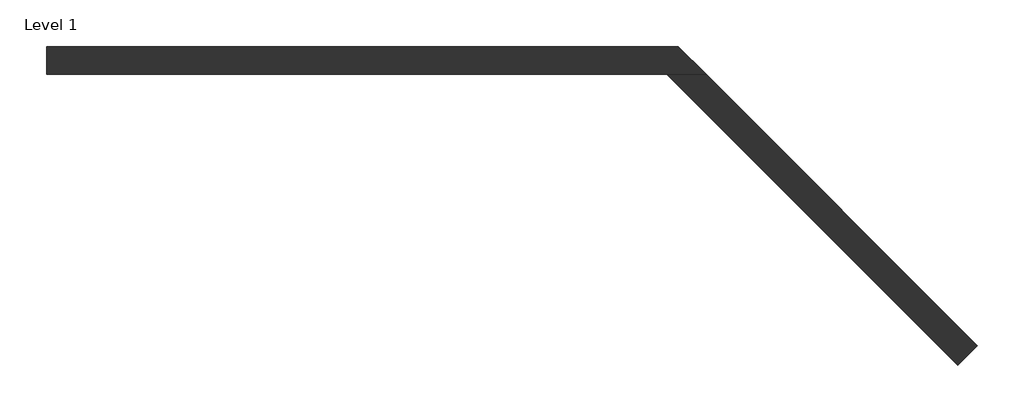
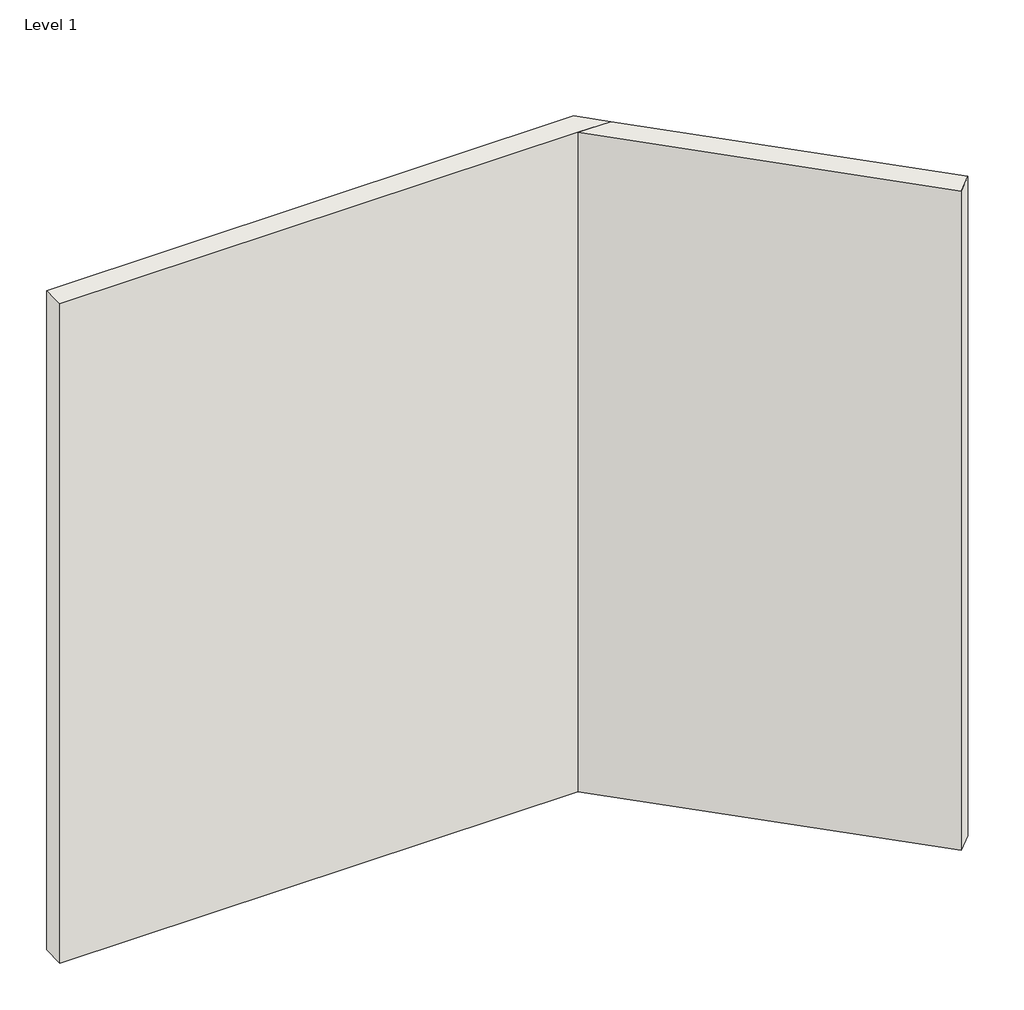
# One storey: 2 walls.
"""IFC4 building model written with IfcOpenShell, lengths in millimetres."""

from ifc_helpers import new_model, si_unit, origin, origin_with_axes, place, context, project, spatial, polyline, outline, extrude, faceted_brep, element, save

model = new_model("IFC4")

# Units and contexts
model_context = context("Model", 3, world=origin())
ifc_project = project(units=[si_unit("LENGTHUNIT", "METRE", prefix="MILLI")], contexts=[model_context])

# Site, building, storey
site = spatial("IfcSite", under=ifc_project)
building = spatial("IfcBuilding", under=site)
storey = spatial("IfcBuildingStorey", under=building, Name="Level 1", Elevation=0.0)

# Walls
placement = place(None, origin())
element("IfcWall", 1, ObjectType="Generic - 8\"", at=placement, inside=storey, context=model_context, shape_type="Brep", body=[
    faceted_brep([(-889.2602902, -741.8838621, 0.0), (3640.6556119, -741.8838621, 0.0), (3928.0238078, -741.8838621, 0.0), (3928.0238078, -741.8838621, 6096.0), (3640.6556119, -741.8838621, 6096.0), (-889.2602902, -741.8838621, 6096.0), (-889.2602902, -538.6838621, 0.0), (-889.2602902, -538.6838621, 6096.0), (3724.8238078, -538.6838621, 6096.0), (3724.8238078, -538.6838621, 0.0)], [[[0, 1, 2, 3, 4, 5]], [[6, 7, 8, 9]], [[2, 1, 0, 6, 9]], [[5, 4, 3, 8, 7]], [[0, 5, 7, 6]], [[3, 2, 9, 8]]]),
])
element("IfcWall", 2, ObjectType="Generic - 8\"", at=placement, inside=storey, context=model_context, shape_type="SweptSolid", body=[
    extrude(outline(polyline([(5766.1591299, -2867.3873802), (3640.6556119, -741.8838621), (3928.0238078, -741.8838621), (5909.8432279, -2723.7032822), (5766.1591299, -2867.3873802)])), origin_with_axes(), (0.0, 0.0, 1.0), 6096.0),
])

save(model, "model.ifc")
